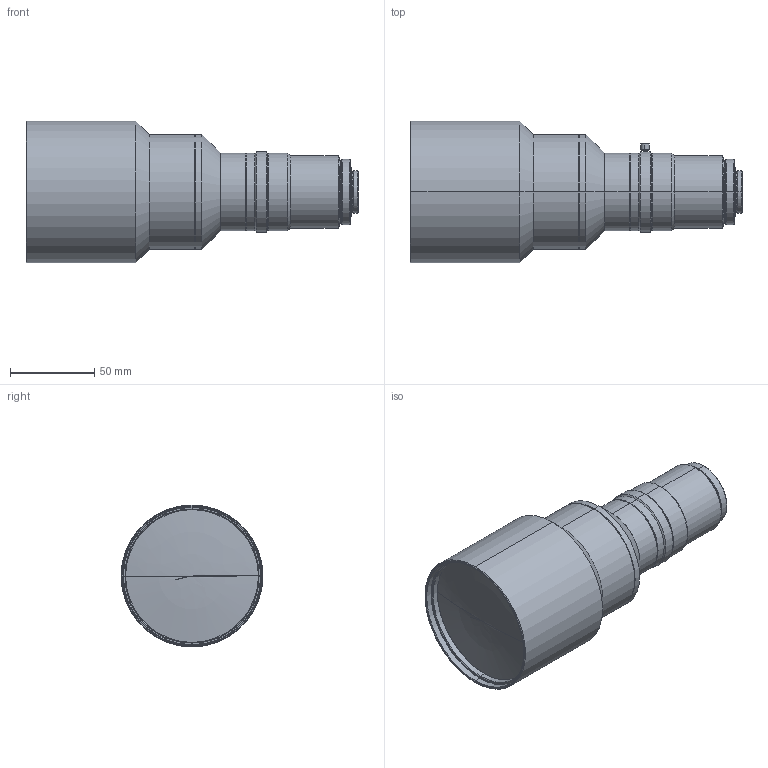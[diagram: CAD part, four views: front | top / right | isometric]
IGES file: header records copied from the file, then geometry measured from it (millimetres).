
Start section: SolidWorks IGES file using analytic representation for surfaces
Bounding box: 196.48 x 84 x 84 mm (x, y, z)
Surface area: 56239.4 mm2 (no closed solid volume)
Topology: 0 solids, 0 shells, 144 faces, 2802 edges, 2800 vertices
Faces by surface type: revolution 124, bspline 20
